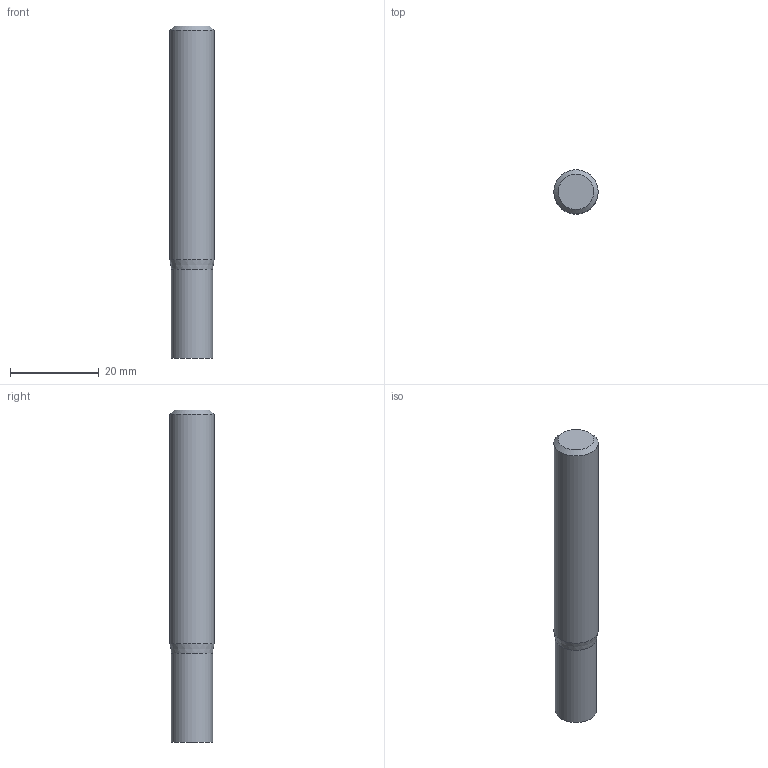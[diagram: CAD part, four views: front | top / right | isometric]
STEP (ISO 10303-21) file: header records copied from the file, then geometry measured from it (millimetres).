
FILE_DESCRIPTION((''),'2;1');
FILE_NAME('C:\Users\nsx150\AppData\Local\Temp\Mastercam 2021\98T1Q6BTT1\TEMP.step','2021-10-21T14:49:53',(''),(''),'STEP Write','Mastercam 2021 ... CNC Software, Inc.','');
FILE_SCHEMA(('AUTOMOTIVE_DESIGN'));
Length unit declared in the file: millimetre
Products named in the file (1): None
Bounding box: 10 x 10 x 75 mm (x, y, z)
Volume: 5651.7 mm3; surface area: 2573.2 mm2
Topology: 2 solids, 2 shells, 8 faces, 10 edges, 6 vertices
Faces by surface type: plane 4, cylinder 2, cone 2
Full cylindrical faces by diameter (mm): 9.3 x1, 10 x1
Entity records: 190 total; most frequent: DIRECTION 32, CARTESIAN_POINT 22, AXIS2_PLACEMENT_3D 16, ORIENTED_EDGE 12, EDGE_LOOP 12, STYLED_ITEM 11, ADVANCED_FACE 8, VERTEX_POINT 6
